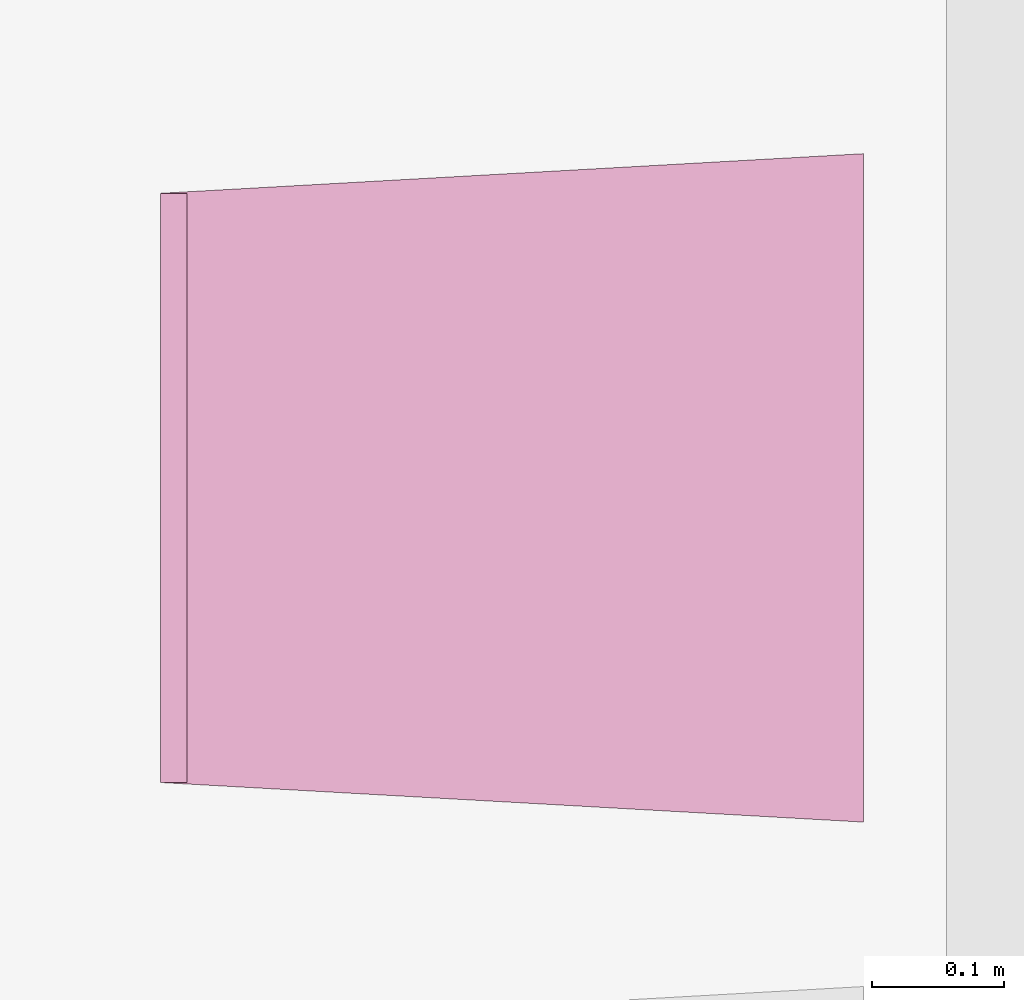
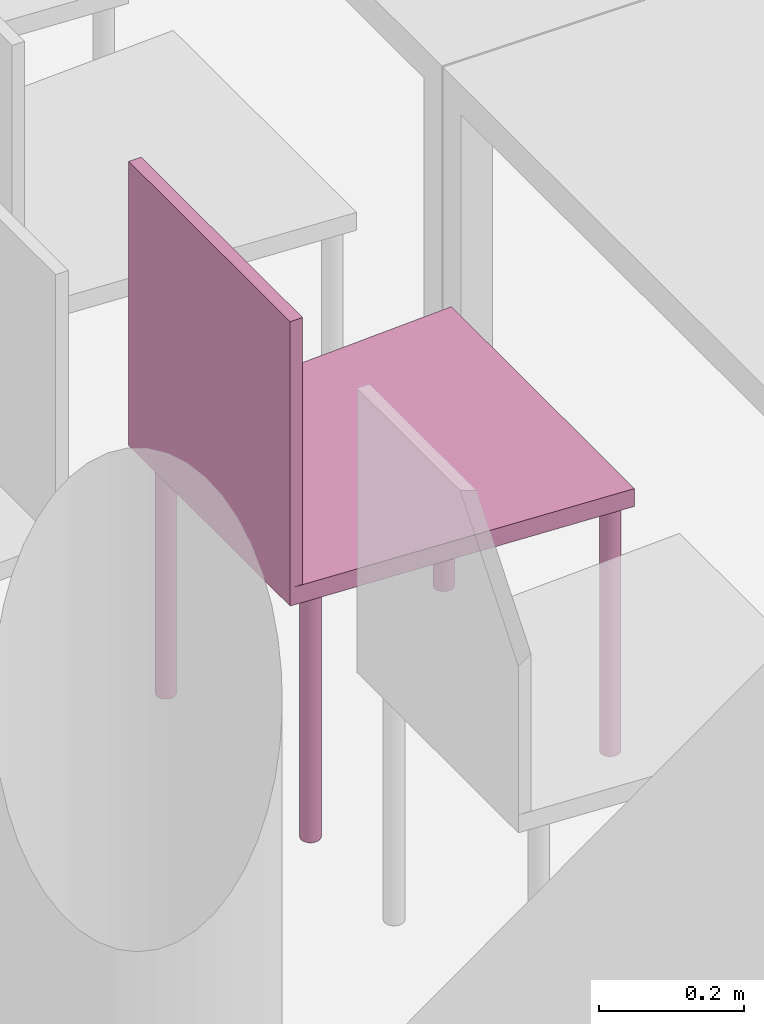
"""IFC4 building model written with IfcOpenShell, lengths in metres."""

from ifc_helpers import new_model, entity, si_unit, converted_unit, derived_unit, frame, origin, place, context, subcontext, project, spatial, faceted_brep, element, save


model = new_model("IFC4")

# Units and contexts
model_context = context("Model", 3, precision=1e-05, world=origin())
body_context = subcontext(model_context, "Body", "Model", "MODEL_VIEW")
ifc_project = project(units=[si_unit("LENGTHUNIT", "METRE"), si_unit("AREAUNIT", "SQUARE_METRE"), si_unit("VOLUMEUNIT", "CUBIC_METRE"), si_unit("MASSUNIT", "GRAM", prefix="KILO"), converted_unit("PLANEANGLEUNIT", "DEGREE", entity("IfcPlaneAngleMeasure", 0.0174532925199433), si_unit("PLANEANGLEUNIT", "RADIAN"), dimensions=[0, 0, 0, 0, 0, 0, 0]), derived_unit("THERMALTRANSMITTANCEUNIT", [(si_unit("POWERUNIT", "WATT"), 1), (si_unit("THERMODYNAMICTEMPERATUREUNIT", "KELVIN"), -1), (si_unit("LENGTHUNIT", "METRE"), -2)]), derived_unit("VOLUMETRICFLOWRATEUNIT", [(si_unit("LENGTHUNIT", "METRE"), 3), (converted_unit("TIMEUNIT", "hour", entity("IfcTimeMeasure", 3600.0), si_unit("TIMEUNIT", "SECOND"), dimensions=[0, 0, 1, 0, 0, 0, 0]), -1), (si_unit("LENGTHUNIT", "METRE"), -1)])], contexts=[model_context])

# Building, storeys
building_placement = place(None, origin())
building = spatial("IfcBuilding", under=ifc_project, at=building_placement, Name="HABITATGE PLURIFAMILIAR", CompositionType="ELEMENT")
storey_1_placement = place(building_placement, frame((0.0, 0.0, 3.35)))
storey_1 = spatial("IfcBuildingStorey", under=building, at=storey_1_placement, Name="PLANTA  ALTELL", CompositionType="ELEMENT", Elevation=3.35)
storey_2_placement = place(storey_1_placement, origin())
storey_2 = spatial("IfcBuildingStorey", under=storey_1, at=storey_2_placement, Name="NOU", CompositionType="PARTIAL")

# Furniture
furniture_placement = place(storey_2_placement, frame((401.456206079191, 14.0103721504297, 0.0499839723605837)))
element("IfcFurniture", 1, at=furniture_placement, inside=storey_2, Name="Cadira confident_PA", context=body_context, shape_type="Brep", body=[
    faceted_brep([(0.507575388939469, 0.0391636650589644, 0.0), (0.504980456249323, 0.0389479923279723, 0.0), (0.502462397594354, 0.0382849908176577, 0.0), (0.500097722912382, 0.0371948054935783, 0.0), (0.497958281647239, 0.0357105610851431, 0.0), (0.496109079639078, 0.0338773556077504, 0.0), (0.494606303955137, 0.0317508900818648, 0.0), (0.493495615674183, 0.0293957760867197, 0.0), (0.492810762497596, 0.0268835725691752, 0.0), (0.492572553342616, 0.0242906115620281, 0.0), (0.492788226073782, 0.0216956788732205, 0.0), (0.493451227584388, 0.019177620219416, 0.0), (0.494541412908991, 0.0168129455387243, 0.0), (0.496025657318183, 0.0146735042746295, 0.0), (0.497858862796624, 0.0128243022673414, 0.0), (0.499985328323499, 0.0113215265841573, 0.0), (0.502340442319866, 0.0102108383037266, 0.0), (0.504852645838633, 0.00952598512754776, 0.0), (0.507445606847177, 0.00928777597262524, 0.0), (0.510040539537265, 0.00950344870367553, 0.0), (0.512558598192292, 0.010166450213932, 0.0), (0.514923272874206, 0.0112566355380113, 0.0), (0.517062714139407, 0.0127408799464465, 0.0), (0.518911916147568, 0.0145740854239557, 0.0), (0.520414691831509, 0.0167005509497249, 0.0), (0.521525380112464, 0.0190556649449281, 0.0), (0.52221023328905, 0.0215678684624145, 0.0), (0.522448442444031, 0.0241608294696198, 0.0), (0.522232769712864, 0.0267557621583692, 0.0), (0.521569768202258, 0.0292738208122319, 0.0), (0.520479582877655, 0.0316384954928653, 0.0), (0.518995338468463, 0.0337779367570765, 0.0), (0.517162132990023, 0.0356271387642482, 0.0), (0.515035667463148, 0.0371299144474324, 0.0), (0.51268055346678, 0.038240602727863, 0.0), (0.510168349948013, 0.0389254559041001, 0.0), (0.507575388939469, 0.0391636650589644, 0.448281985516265), (0.510168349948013, 0.0389254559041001, 0.448281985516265), (0.51268055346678, 0.038240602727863, 0.448281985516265), (0.515035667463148, 0.0371299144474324, 0.448281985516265), (0.517162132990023, 0.0356271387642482, 0.448281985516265), (0.518995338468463, 0.0337779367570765, 0.448281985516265), (0.520479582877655, 0.0316384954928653, 0.448281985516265), (0.521569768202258, 0.0292738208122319, 0.448281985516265), (0.522232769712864, 0.0267557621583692, 0.448281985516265), (0.522448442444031, 0.0241608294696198, 0.448281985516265), (0.52221023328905, 0.0215678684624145, 0.448281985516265), (0.521525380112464, 0.0190556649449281, 0.448281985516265), (0.520414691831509, 0.0167005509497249, 0.448281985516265), (0.518911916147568, 0.0145740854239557, 0.448281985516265), (0.517062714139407, 0.0127408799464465, 0.448281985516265), (0.514923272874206, 0.0112566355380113, 0.448281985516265), (0.512558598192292, 0.010166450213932, 0.448281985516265), (0.510040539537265, 0.00950344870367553, 0.448281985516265), (0.507445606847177, 0.00928777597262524, 0.448281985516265), (0.504852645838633, 0.00952598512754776, 0.448281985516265), (0.502340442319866, 0.0102108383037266, 0.448281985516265), (0.499985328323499, 0.0113215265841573, 0.448281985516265), (0.497858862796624, 0.0128243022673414, 0.448281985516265), (0.496025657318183, 0.0146735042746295, 0.448281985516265), (0.494541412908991, 0.0168129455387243, 0.448281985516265), (0.493451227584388, 0.019177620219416, 0.448281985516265), (0.492788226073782, 0.0216956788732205, 0.448281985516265), (0.492572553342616, 0.0242906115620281, 0.448281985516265), (0.492810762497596, 0.0268835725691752, 0.448281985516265), (0.493495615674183, 0.0293957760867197, 0.448281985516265), (0.494606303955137, 0.0317508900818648, 0.448281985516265), (0.496109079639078, 0.0338773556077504, 0.448281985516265), (0.497958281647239, 0.0357105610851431, 0.448281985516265), (0.500097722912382, 0.0371948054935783, 0.448281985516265), (0.502462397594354, 0.0382849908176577, 0.448281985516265), (0.504980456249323, 0.0389479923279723, 0.448281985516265)], [[[0, 1, 2, 3, 4, 5, 6, 7, 8, 9, 10, 11, 12, 13, 14, 15, 16, 17, 18, 19, 20, 21, 22, 23, 24, 25, 26, 27, 28, 29, 30, 31, 32, 33, 34, 35]], [[36, 37, 38, 39, 40, 41, 42, 43, 44, 45, 46, 47, 48, 49, 50, 51, 52, 53, 54, 55, 56, 57, 58, 59, 60, 61, 62, 63, 64, 65, 66, 67, 68, 69, 70, 71]], [[1, 0, 36, 71]], [[2, 1, 71, 70]], [[3, 2, 70, 69]], [[4, 3, 69, 68]], [[5, 4, 68, 67]], [[6, 5, 67, 66]], [[7, 6, 66, 65]], [[8, 7, 65, 64]], [[9, 8, 64, 63]], [[10, 9, 63, 62]], [[11, 10, 62, 61]], [[12, 11, 61, 60]], [[13, 12, 60, 59]], [[14, 13, 59, 58]], [[15, 14, 58, 57]], [[16, 15, 57, 56]], [[17, 16, 56, 55]], [[18, 17, 55, 54]], [[19, 18, 54, 53]], [[20, 19, 53, 52]], [[21, 20, 52, 51]], [[22, 21, 51, 50]], [[23, 22, 50, 49]], [[24, 23, 49, 48]], [[25, 24, 48, 47]], [[26, 25, 47, 46]], [[27, 26, 46, 45]], [[28, 27, 45, 44]], [[29, 28, 44, 43]], [[30, 29, 43, 42]], [[31, 30, 42, 41]], [[32, 31, 41, 40]], [[33, 32, 40, 39]], [[34, 33, 39, 38]], [[35, 34, 38, 37]], [[0, 35, 37, 36]]], orient=[[False], [False], [False], [False], [False], [False], [False], [False], [False], [False], [False], [False], [False], [False], [False], [False], [False], [False], [False], [False], [False], [False], [False], [False], [False], [False], [False], [False], [False], [False], [False], [False], [False], [False], [False], [False], [False], [False]]),
    faceted_brep([(0.0451683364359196, 0.0668016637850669, 0.0), (0.0425734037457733, 0.0665859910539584, 0.0), (0.0400553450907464, 0.065922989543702, 0.0), (0.0376906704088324, 0.0648328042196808, 0.0), (0.0355512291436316, 0.0633485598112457, 0.0), (0.0337020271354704, 0.0615153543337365, 0.0), (0.0321992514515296, 0.0593888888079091, 0.0), (0.0310885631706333, 0.057033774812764, 0.0), (0.0304037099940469, 0.0545215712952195, 0.0), (0.030165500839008, 0.0519286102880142, 0.0), (0.0303811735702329, 0.0493336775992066, 0.0), (0.0310441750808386, 0.0468156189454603, 0.0), (0.0321343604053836, 0.0444509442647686, 0.0), (0.0336186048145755, 0.0423115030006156, 0.0), (0.035451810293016, 0.0404623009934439, 0.0), (0.0375782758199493, 0.0389595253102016, 0.0), (0.0399333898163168, 0.0378488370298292, 0.0), (0.0424455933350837, 0.0371639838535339, 0.0), (0.0450385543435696, 0.0369257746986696, 0.0), (0.0476334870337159, 0.0371414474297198, 0.0), (0.0501515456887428, 0.0378044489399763, 0.0), (0.0525162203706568, 0.0388946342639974, 0.0), (0.0546556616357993, 0.0403788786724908, 0.0), (0.0565048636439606, 0.0422120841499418, 0.0), (0.0580076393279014, 0.0443385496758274, 0.0), (0.0591183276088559, 0.0466936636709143, 0.0), (0.0598031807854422, 0.0492058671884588, 0.0), (0.060041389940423, 0.0517988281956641, 0.0), (0.0598257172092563, 0.0543937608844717, 0.0), (0.0591627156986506, 0.056911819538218, 0.0), (0.0580725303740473, 0.0592764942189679, 0.0), (0.0565882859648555, 0.0614159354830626, 0.0), (0.054755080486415, 0.0632651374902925, 0.0), (0.0526286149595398, 0.0647679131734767, 0.0), (0.0502735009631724, 0.0658786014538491, 0.0), (0.0477612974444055, 0.0665634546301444, 0.0), (0.0451683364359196, 0.0668016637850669, 0.448281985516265), (0.0477612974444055, 0.0665634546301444, 0.448281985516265), (0.0502735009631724, 0.0658786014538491, 0.448281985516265), (0.0526286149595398, 0.0647679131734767, 0.448281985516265), (0.054755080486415, 0.0632651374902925, 0.448281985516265), (0.0565882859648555, 0.0614159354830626, 0.448281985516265), (0.0580725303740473, 0.0592764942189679, 0.448281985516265), (0.0591627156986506, 0.056911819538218, 0.448281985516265), (0.0598257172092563, 0.0543937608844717, 0.448281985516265), (0.060041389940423, 0.0517988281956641, 0.448281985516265), (0.0598031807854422, 0.0492058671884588, 0.448281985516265), (0.0591183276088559, 0.0466936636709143, 0.448281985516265), (0.0580076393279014, 0.0443385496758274, 0.448281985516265), (0.0565048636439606, 0.0422120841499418, 0.448281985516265), (0.0546556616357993, 0.0403788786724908, 0.448281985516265), (0.0525162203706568, 0.0388946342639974, 0.448281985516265), (0.0501515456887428, 0.0378044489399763, 0.448281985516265), (0.0476334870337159, 0.0371414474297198, 0.448281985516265), (0.0450385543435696, 0.0369257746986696, 0.448281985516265), (0.0424455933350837, 0.0371639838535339, 0.448281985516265), (0.0399333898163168, 0.0378488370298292, 0.448281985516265), (0.0375782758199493, 0.0389595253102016, 0.448281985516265), (0.035451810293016, 0.0404623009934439, 0.448281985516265), (0.0336186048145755, 0.0423115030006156, 0.448281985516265), (0.0321343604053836, 0.0444509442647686, 0.448281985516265), (0.0310441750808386, 0.0468156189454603, 0.448281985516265), (0.0303811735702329, 0.0493336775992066, 0.448281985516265), (0.030165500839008, 0.0519286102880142, 0.448281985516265), (0.0304037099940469, 0.0545215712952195, 0.448281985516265), (0.0310885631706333, 0.057033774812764, 0.448281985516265), (0.0321992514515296, 0.0593888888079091, 0.448281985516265), (0.0337020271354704, 0.0615153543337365, 0.448281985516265), (0.0355512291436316, 0.0633485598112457, 0.448281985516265), (0.0376906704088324, 0.0648328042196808, 0.448281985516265), (0.0400553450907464, 0.065922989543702, 0.448281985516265), (0.0425734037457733, 0.0665859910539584, 0.448281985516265)], [[[0, 1, 2, 3, 4, 5, 6, 7, 8, 9, 10, 11, 12, 13, 14, 15, 16, 17, 18, 19, 20, 21, 22, 23, 24, 25, 26, 27, 28, 29, 30, 31, 32, 33, 34, 35]], [[36, 37, 38, 39, 40, 41, 42, 43, 44, 45, 46, 47, 48, 49, 50, 51, 52, 53, 54, 55, 56, 57, 58, 59, 60, 61, 62, 63, 64, 65, 66, 67, 68, 69, 70, 71]], [[1, 0, 36, 71]], [[2, 1, 71, 70]], [[3, 2, 70, 69]], [[4, 3, 69, 68]], [[5, 4, 68, 67]], [[6, 5, 67, 66]], [[7, 6, 66, 65]], [[8, 7, 65, 64]], [[9, 8, 64, 63]], [[10, 9, 63, 62]], [[11, 10, 62, 61]], [[12, 11, 61, 60]], [[13, 12, 60, 59]], [[14, 13, 59, 58]], [[15, 14, 58, 57]], [[16, 15, 57, 56]], [[17, 16, 56, 55]], [[18, 17, 55, 54]], [[19, 18, 54, 53]], [[20, 19, 53, 52]], [[21, 20, 52, 51]], [[22, 21, 51, 50]], [[23, 22, 50, 49]], [[24, 23, 49, 48]], [[25, 24, 48, 47]], [[26, 25, 47, 46]], [[27, 26, 46, 45]], [[28, 27, 45, 44]], [[29, 28, 44, 43]], [[30, 29, 43, 42]], [[31, 30, 42, 41]], [[32, 31, 41, 40]], [[33, 32, 40, 39]], [[34, 33, 39, 38]], [[35, 34, 38, 37]], [[0, 35, 37, 36]]], orient=[[False], [False], [False], [False], [False], [False], [False], [False], [False], [False], [False], [False], [False], [False], [False], [False], [False], [False], [False], [False], [False], [False], [False], [False], [False], [False], [False], [False], [False], [False], [False], [False], [False], [False], [False], [False], [False], [False]]),
    faceted_brep([(0.50757538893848, 0.499163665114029, 0.0), (0.504980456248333, 0.49894799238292, 0.0), (0.502462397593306, 0.498284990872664, 0.0), (0.500097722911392, 0.497194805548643, 0.0), (0.49795828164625, 0.495710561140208, 0.0), (0.49610907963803, 0.493877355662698, 0.0), (0.494606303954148, 0.491750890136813, 0.0), (0.493495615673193, 0.489395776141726, 0.0), (0.492810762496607, 0.486883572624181, 0.0), (0.492572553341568, 0.484290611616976, 0.0), (0.492788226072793, 0.481695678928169, 0.0), (0.493451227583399, 0.479177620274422, 0.0), (0.494541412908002, 0.476812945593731, 0.0), (0.496025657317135, 0.474673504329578, 0.0), (0.497858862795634, 0.472824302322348, 0.0), (0.499985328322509, 0.471321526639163, 0.0), (0.502340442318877, 0.470210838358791, 0.0), (0.504852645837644, 0.469525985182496, 0.0), (0.507445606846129, 0.469287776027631, 0.0), (0.510040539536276, 0.469503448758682, 0.0), (0.512558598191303, 0.470166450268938, 0.0), (0.514923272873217, 0.471256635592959, 0.0), (0.517062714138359, 0.472740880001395, 0.0), (0.518911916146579, 0.474574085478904, 0.0), (0.520414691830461, 0.476700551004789, 0.0), (0.521525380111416, 0.479055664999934, 0.0), (0.522210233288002, 0.481567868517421, 0.0), (0.522448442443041, 0.484160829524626, 0.0), (0.522232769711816, 0.486755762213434, 0.0), (0.521569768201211, 0.489273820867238, 0.0), (0.520479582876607, 0.491638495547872, 0.0), (0.518995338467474, 0.493777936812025, 0.0), (0.517162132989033, 0.495627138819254, 0.0), (0.5150356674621, 0.497129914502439, 0.0), (0.512680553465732, 0.498240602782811, 0.0), (0.510168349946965, 0.498925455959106, 0.0), (0.50757538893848, 0.499163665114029, 0.448281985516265), (0.510168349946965, 0.498925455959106, 0.448281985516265), (0.512680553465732, 0.498240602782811, 0.448281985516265), (0.5150356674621, 0.497129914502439, 0.448281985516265), (0.517162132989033, 0.495627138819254, 0.448281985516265), (0.518995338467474, 0.493777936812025, 0.448281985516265), (0.520479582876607, 0.491638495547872, 0.448281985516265), (0.521569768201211, 0.489273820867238, 0.448281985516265), (0.522232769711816, 0.486755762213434, 0.448281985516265), (0.522448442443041, 0.484160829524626, 0.448281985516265), (0.522210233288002, 0.481567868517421, 0.448281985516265), (0.521525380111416, 0.479055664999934, 0.448281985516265), (0.520414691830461, 0.476700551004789, 0.448281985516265), (0.518911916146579, 0.474574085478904, 0.448281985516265), (0.517062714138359, 0.472740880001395, 0.448281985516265), (0.514923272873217, 0.471256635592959, 0.448281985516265), (0.512558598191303, 0.470166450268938, 0.448281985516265), (0.510040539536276, 0.469503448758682, 0.448281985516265), (0.507445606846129, 0.469287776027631, 0.448281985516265), (0.504852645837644, 0.469525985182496, 0.448281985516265), (0.502340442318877, 0.470210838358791, 0.448281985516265), (0.499985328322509, 0.471321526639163, 0.448281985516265), (0.497858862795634, 0.472824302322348, 0.448281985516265), (0.496025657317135, 0.474673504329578, 0.448281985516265), (0.494541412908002, 0.476812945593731, 0.448281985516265), (0.493451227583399, 0.479177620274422, 0.448281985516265), (0.492788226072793, 0.481695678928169, 0.448281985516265), (0.492572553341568, 0.484290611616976, 0.448281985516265), (0.492810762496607, 0.486883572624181, 0.448281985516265), (0.493495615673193, 0.489395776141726, 0.448281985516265), (0.494606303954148, 0.491750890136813, 0.448281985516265), (0.49610907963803, 0.493877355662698, 0.448281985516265), (0.49795828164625, 0.495710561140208, 0.448281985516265), (0.500097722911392, 0.497194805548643, 0.448281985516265), (0.502462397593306, 0.498284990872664, 0.448281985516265), (0.504980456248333, 0.49894799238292, 0.448281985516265)], [[[0, 1, 2, 3, 4, 5, 6, 7, 8, 9, 10, 11, 12, 13, 14, 15, 16, 17, 18, 19, 20, 21, 22, 23, 24, 25, 26, 27, 28, 29, 30, 31, 32, 33, 34, 35]], [[36, 37, 38, 39, 40, 41, 42, 43, 44, 45, 46, 47, 48, 49, 50, 51, 52, 53, 54, 55, 56, 57, 58, 59, 60, 61, 62, 63, 64, 65, 66, 67, 68, 69, 70, 71]], [[1, 0, 36, 71]], [[2, 1, 71, 70]], [[3, 2, 70, 69]], [[4, 3, 69, 68]], [[5, 4, 68, 67]], [[6, 5, 67, 66]], [[7, 6, 66, 65]], [[8, 7, 65, 64]], [[9, 8, 64, 63]], [[10, 9, 63, 62]], [[11, 10, 62, 61]], [[12, 11, 61, 60]], [[13, 12, 60, 59]], [[14, 13, 59, 58]], [[15, 14, 58, 57]], [[16, 15, 57, 56]], [[17, 16, 56, 55]], [[18, 17, 55, 54]], [[19, 18, 54, 53]], [[20, 19, 53, 52]], [[21, 20, 52, 51]], [[22, 21, 51, 50]], [[23, 22, 50, 49]], [[24, 23, 49, 48]], [[25, 24, 48, 47]], [[26, 25, 47, 46]], [[27, 26, 46, 45]], [[28, 27, 45, 44]], [[29, 28, 44, 43]], [[30, 29, 43, 42]], [[31, 30, 42, 41]], [[32, 31, 41, 40]], [[33, 32, 40, 39]], [[34, 33, 39, 38]], [[35, 34, 38, 37]], [[0, 35, 37, 36]]], orient=[[False], [False], [False], [False], [False], [False], [False], [False], [False], [False], [False], [False], [False], [False], [False], [False], [False], [False], [False], [False], [False], [False], [False], [False], [False], [False], [False], [False], [False], [False], [False], [False], [False], [False], [False], [False], [False], [False]]),
    faceted_brep([(0.0451683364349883, 0.466801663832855, 0.0), (0.0425734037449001, 0.466585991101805, 0.0), (0.0400553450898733, 0.465922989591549, 0.0), (0.0376906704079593, 0.464832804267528, 0.0), (0.0355512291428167, 0.463348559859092, 0.0), (0.0337020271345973, 0.461515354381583, 0.0), (0.0321992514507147, 0.459388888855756, 0.0), (0.0310885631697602, 0.457033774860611, 0.0), (0.0304037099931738, 0.454521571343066, 0.0), (0.0301655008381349, 0.451928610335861, 0.0), (0.0303811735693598, 0.449333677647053, 0.0), (0.0310441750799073, 0.446815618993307, 0.0), (0.0321343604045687, 0.444450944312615, 0.0), (0.0336186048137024, 0.442311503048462, 0.0), (0.0354518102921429, 0.440462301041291, 0.0), (0.0375782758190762, 0.438959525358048, 0.0), (0.0399333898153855, 0.437848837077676, 0.0), (0.0424455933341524, 0.437163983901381, 0.0), (0.0450385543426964, 0.436925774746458, 0.0), (0.0476334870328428, 0.437141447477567, 0.0), (0.0501515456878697, 0.437804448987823, 0.0), (0.0525162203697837, 0.438894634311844, 0.0), (0.0546556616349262, 0.440378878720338, 0.0), (0.0565048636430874, 0.442212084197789, 0.0), (0.0580076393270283, 0.444338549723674, 0.0), (0.0591183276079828, 0.446693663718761, 0.0), (0.0598031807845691, 0.449205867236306, 0.0), (0.0600413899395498, 0.451798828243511, 0.0), (0.0598257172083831, 0.454393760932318, 0.0), (0.0591627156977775, 0.456911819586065, 0.0), (0.0580725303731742, 0.459276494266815, 0.0), (0.0565882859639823, 0.461415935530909, 0.0), (0.0547550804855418, 0.463265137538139, 0.0), (0.0526286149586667, 0.464767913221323, 0.0), (0.0502735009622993, 0.465878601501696, 0.0), (0.0477612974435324, 0.466563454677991, 0.0), (0.0451683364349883, 0.466801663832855, 0.448281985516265), (0.0477612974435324, 0.466563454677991, 0.448281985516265), (0.0502735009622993, 0.465878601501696, 0.448281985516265), (0.0526286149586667, 0.464767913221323, 0.448281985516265), (0.0547550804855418, 0.463265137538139, 0.448281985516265), (0.0565882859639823, 0.461415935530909, 0.448281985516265), (0.0580725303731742, 0.459276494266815, 0.448281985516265), (0.0591627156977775, 0.456911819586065, 0.448281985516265), (0.0598257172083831, 0.454393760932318, 0.448281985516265), (0.0600413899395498, 0.451798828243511, 0.448281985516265), (0.0598031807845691, 0.449205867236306, 0.448281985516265), (0.0591183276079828, 0.446693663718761, 0.448281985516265), (0.0580076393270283, 0.444338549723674, 0.448281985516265), (0.0565048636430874, 0.442212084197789, 0.448281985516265), (0.0546556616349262, 0.440378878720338, 0.448281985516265), (0.0525162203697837, 0.438894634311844, 0.448281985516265), (0.0501515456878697, 0.437804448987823, 0.448281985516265), (0.0476334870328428, 0.437141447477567, 0.448281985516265), (0.0450385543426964, 0.436925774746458, 0.448281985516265), (0.0424455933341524, 0.437163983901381, 0.448281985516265), (0.0399333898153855, 0.437848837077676, 0.448281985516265), (0.0375782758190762, 0.438959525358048, 0.448281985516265), (0.0354518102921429, 0.440462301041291, 0.448281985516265), (0.0336186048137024, 0.442311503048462, 0.448281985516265), (0.0321343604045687, 0.444450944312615, 0.448281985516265), (0.0310441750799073, 0.446815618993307, 0.448281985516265), (0.0303811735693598, 0.449333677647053, 0.448281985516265), (0.0301655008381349, 0.451928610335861, 0.448281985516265), (0.0304037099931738, 0.454521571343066, 0.448281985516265), (0.0310885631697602, 0.457033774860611, 0.448281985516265), (0.0321992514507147, 0.459388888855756, 0.448281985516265), (0.0337020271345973, 0.461515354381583, 0.448281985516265), (0.0355512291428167, 0.463348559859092, 0.448281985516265), (0.0376906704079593, 0.464832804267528, 0.448281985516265), (0.0400553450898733, 0.465922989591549, 0.448281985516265), (0.0425734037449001, 0.466585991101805, 0.448281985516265)], [[[0, 1, 2, 3, 4, 5, 6, 7, 8, 9, 10, 11, 12, 13, 14, 15, 16, 17, 18, 19, 20, 21, 22, 23, 24, 25, 26, 27, 28, 29, 30, 31, 32, 33, 34, 35]], [[36, 37, 38, 39, 40, 41, 42, 43, 44, 45, 46, 47, 48, 49, 50, 51, 52, 53, 54, 55, 56, 57, 58, 59, 60, 61, 62, 63, 64, 65, 66, 67, 68, 69, 70, 71]], [[1, 0, 36, 71]], [[2, 1, 71, 70]], [[3, 2, 70, 69]], [[4, 3, 69, 68]], [[5, 4, 68, 67]], [[6, 5, 67, 66]], [[7, 6, 66, 65]], [[8, 7, 65, 64]], [[9, 8, 64, 63]], [[10, 9, 63, 62]], [[11, 10, 62, 61]], [[12, 11, 61, 60]], [[13, 12, 60, 59]], [[14, 13, 59, 58]], [[15, 14, 58, 57]], [[16, 15, 57, 56]], [[17, 16, 56, 55]], [[18, 17, 55, 54]], [[19, 18, 54, 53]], [[20, 19, 53, 52]], [[21, 20, 52, 51]], [[22, 21, 51, 50]], [[23, 22, 50, 49]], [[24, 23, 49, 48]], [[25, 24, 48, 47]], [[26, 25, 47, 46]], [[27, 26, 46, 45]], [[28, 27, 45, 44]], [[29, 28, 44, 43]], [[30, 29, 43, 42]], [[31, 30, 42, 41]], [[32, 31, 41, 40]], [[33, 32, 40, 39]], [[34, 33, 39, 38]], [[35, 34, 38, 37]], [[0, 35, 37, 36]]], orient=[[False], [False], [False], [False], [False], [False], [False], [False], [False], [False], [False], [False], [False], [False], [False], [False], [False], [False], [False], [False], [False], [False], [False], [False], [False], [False], [False], [False], [False], [False], [False], [False], [False], [False], [False], [False], [False], [False]]),
    faceted_brep([(0.0, 0.476514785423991, 0.418281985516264), (0.0, 0.0300000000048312, 0.418281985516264), (0.532607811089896, 0.0, 0.418281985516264), (0.532607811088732, 0.506514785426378, 0.418281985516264), (0.532607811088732, 0.506514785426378, 0.448281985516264), (0.532607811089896, 0.0, 0.448281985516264), (0.0, 0.0300000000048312, 0.448281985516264), (0.0, 0.476514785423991, 0.448281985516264)], [[[0, 1, 2, 3]], [[4, 5, 6, 7]], [[3, 4, 7, 0]], [[2, 5, 4, 3]], [[1, 6, 5, 2]], [[0, 7, 6, 1]]], orient=[[False], [False], [False], [False], [False], [False]]),
    faceted_brep([(0.0200000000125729, 0.476514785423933, 0.448281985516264), (0.0, 0.476514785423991, 0.448281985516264), (0.0, 0.0300000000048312, 0.448281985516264), (0.0200000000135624, 0.0300000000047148, 0.448281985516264), (0.0200000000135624, 0.0300000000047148, 0.898281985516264), (0.0, 0.0300000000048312, 0.898281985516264), (0.0, 0.476514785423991, 0.898281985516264), (0.0200000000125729, 0.476514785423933, 0.898281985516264)], [[[0, 1, 2, 3]], [[4, 5, 6, 7]], [[3, 4, 7, 0]], [[2, 5, 4, 3]], [[1, 6, 5, 2]], [[0, 7, 6, 1]]], orient=[[False], [False], [False], [False], [False], [False]]),
])

save(model, "model.ifc")
